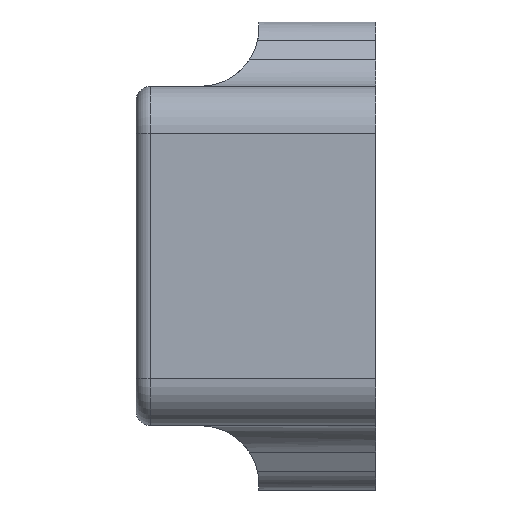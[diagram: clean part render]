
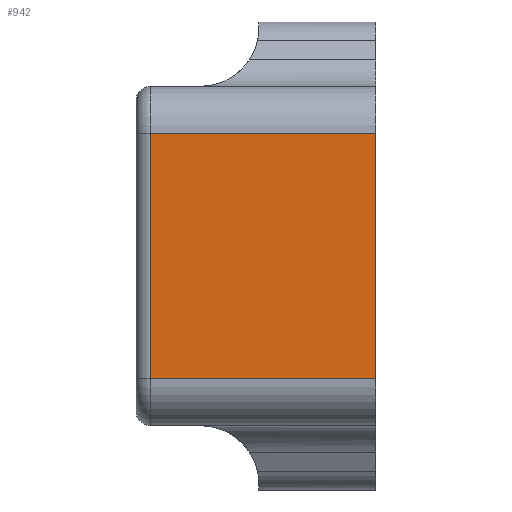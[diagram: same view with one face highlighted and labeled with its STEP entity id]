
A CAD part, left-side view. The second image highlights one B-rep face of the part: STEP entity #942.
In plain terms, the highlighted planar face has unit normal (-1, 0, 0).
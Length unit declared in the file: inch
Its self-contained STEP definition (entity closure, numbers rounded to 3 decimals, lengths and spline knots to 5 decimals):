
#64 = LINE ( 'NONE', #2248, #1355 ) ;
#84 = ORIENTED_EDGE ( 'NONE', *, *, #2311, .T. ) ;
#100 = VERTEX_POINT ( 'NONE', #1073 ) ;
#117 = ORIENTED_EDGE ( 'NONE', *, *, #983, .T. ) ;
#118 = ORIENTED_EDGE ( 'NONE', *, *, #467, .T. ) ;
#163 = VERTEX_POINT ( 'NONE', #342 ) ;
#335 = EDGE_CURVE ( 'NONE', #1291, #100, #667, .T. ) ;
#342 = CARTESIAN_POINT ( 'NONE',  ( -2.08661, 0., -0.82677 ) ) ;
#370 = VERTEX_POINT ( 'NONE', #1900 ) ;
#467 = EDGE_CURVE ( 'NONE', #163, #1291, #702, .T. ) ;
#510 = VECTOR ( 'NONE', #2604, 39.37008 ) ;
#570 = CARTESIAN_POINT ( 'NONE',  ( -2.08661, 1.61417, -0.82677 ) ) ;
#599 = PLANE ( 'NONE',  #752 ) ;
#667 = LINE ( 'NONE', #1569, #510 ) ;
#701 = DIRECTION ( 'NONE',  ( 0., -1., 0. ) ) ;
#702 = LINE ( 'NONE', #1875, #1544 ) ;
#752 = AXIS2_PLACEMENT_3D ( 'NONE', #1937, #1377, #1457 ) ;
#942 = ADVANCED_FACE ( 'NONE', ( #2152 ), #599, .F. ) ;
#983 = EDGE_CURVE ( 'NONE', #370, #163, #2108, .T. ) ;
#1073 = CARTESIAN_POINT ( 'NONE',  ( -2.08661, 1.51575, 0.82677 ) ) ;
#1143 = CARTESIAN_POINT ( 'NONE',  ( -2.08661, 0., 0.82677 ) ) ;
#1291 = VERTEX_POINT ( 'NONE', #1143 ) ;
#1355 = VECTOR ( 'NONE', #2048, 39.37008 ) ;
#1377 = DIRECTION ( 'NONE',  ( 1., 0., 0. ) ) ;
#1428 = EDGE_LOOP ( 'NONE', ( #2296, #84, #117, #118 ) ) ;
#1457 = DIRECTION ( 'NONE',  ( 0., 0., -1. ) ) ;
#1544 = VECTOR ( 'NONE', #2675, 39.37008 ) ;
#1569 = CARTESIAN_POINT ( 'NONE',  ( -2.08661, 1.61417, 0.82677 ) ) ;
#1875 = CARTESIAN_POINT ( 'NONE',  ( -2.08661, 0., 1.14173 ) ) ;
#1900 = CARTESIAN_POINT ( 'NONE',  ( -2.08661, 1.51575, -0.82677 ) ) ;
#1937 = CARTESIAN_POINT ( 'NONE',  ( -2.08661, 1.61417, 1.14173 ) ) ;
#2048 = DIRECTION ( 'NONE',  ( 0., 0., -1. ) ) ;
#2103 = VECTOR ( 'NONE', #701, 39.37008 ) ;
#2108 = LINE ( 'NONE', #570, #2103 ) ;
#2152 = FACE_OUTER_BOUND ( 'NONE', #1428, .T. ) ;
#2248 = CARTESIAN_POINT ( 'NONE',  ( -2.08661, 1.51575, 1.14173 ) ) ;
#2296 = ORIENTED_EDGE ( 'NONE', *, *, #335, .T. ) ;
#2311 = EDGE_CURVE ( 'NONE', #100, #370, #64, .T. ) ;
#2604 = DIRECTION ( 'NONE',  ( 0., 1., 0. ) ) ;
#2675 = DIRECTION ( 'NONE',  ( 0., 0., 1. ) ) ;
